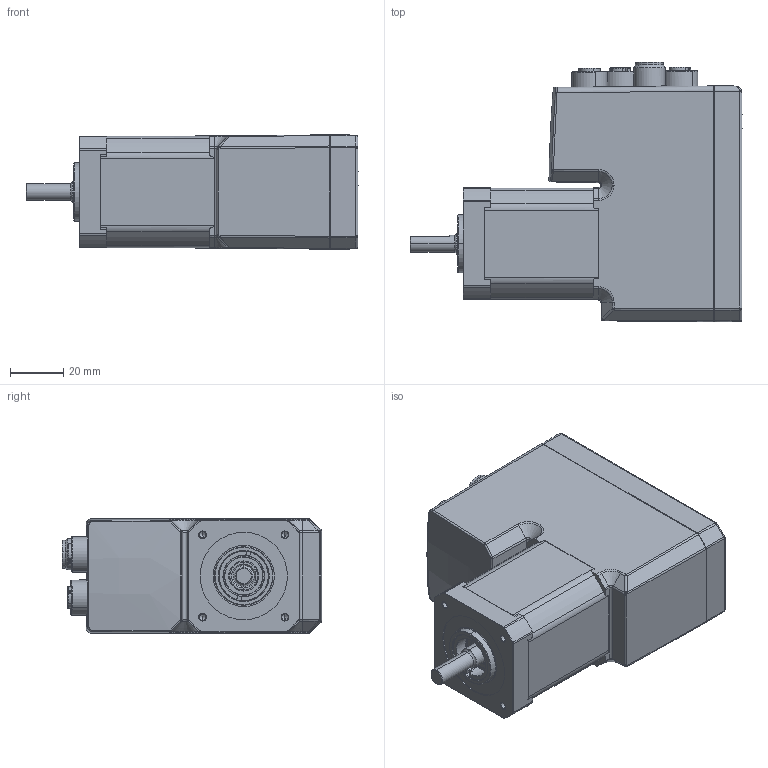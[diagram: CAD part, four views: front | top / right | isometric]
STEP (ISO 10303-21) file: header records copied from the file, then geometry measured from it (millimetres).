
FILE_DESCRIPTION((''),'2;1');
FILE_NAME('STEPPERASSY_ASM','2023-03-25T12:05:12',('Administrator'),(''),'CREO PARAMETRIC BY PTC INC, 2022014','CREO PARAMETRIC BY PTC INC, 2022014','');
FILE_SCHEMA(('AUTOMOTIVE_DESIGN { 1 0 10303 214 1 1 1 1 }'));
Products named in the file (16): EXMSBR-9_; EXMSBR-8_; EXMSBR-7_; EXMSBR-6_; EXMSBR-5_; EXMSBR-4_; EXMSBR-3_; EXMSBR-2_; EXMSBR-1_; RADIAL_PLANE_HEATSINK; TOP_CON_CASE_NEW17; TOP_EX_NEW_ASM; 17_STACK_CON; S_635D_NEW; MIS17_ASM; STEPPERASSY_ASM
Assembly tree (15 placements, depth 4):
  STEPPERASSY_ASM
    MIS17_ASM
      TOP_EX_NEW_ASM
        EXMSBR-9_
        EXMSBR-8_
        EXMSBR-7_
        EXMSBR-6_
        EXMSBR-5_
        EXMSBR-4_
        EXMSBR-3_
        EXMSBR-2_
        EXMSBR-1_
        RADIAL_PLANE_HEATSINK
        TOP_CON_CASE_NEW17
      17_STACK_CON
      S_635D_NEW
Bounding box: 125.01 x 97.74 x 43.06 mm (x, y, z)
Volume: 256292.7 mm3; surface area: 81569.9 mm2
Topology: 24 solids, 27 shells, 1888 faces, 5538 edges, 3704 vertices
Faces by surface type: cylinder 642, plane 585, cone 297, torus 161, bspline 116, sphere 85, extrusion 2
Entity records: 125060 total; most frequent: CARTESIAN_POINT 54255, ORIENTED_EDGE 10760, DIRECTION 9673, EDGE_CURVE 5380, PRESENTATION_STYLE_ASSIGNMENT 4470, STYLED_ITEM 4256, AXIS2_PLACEMENT_3D 3704, VERTEX_POINT 3650
